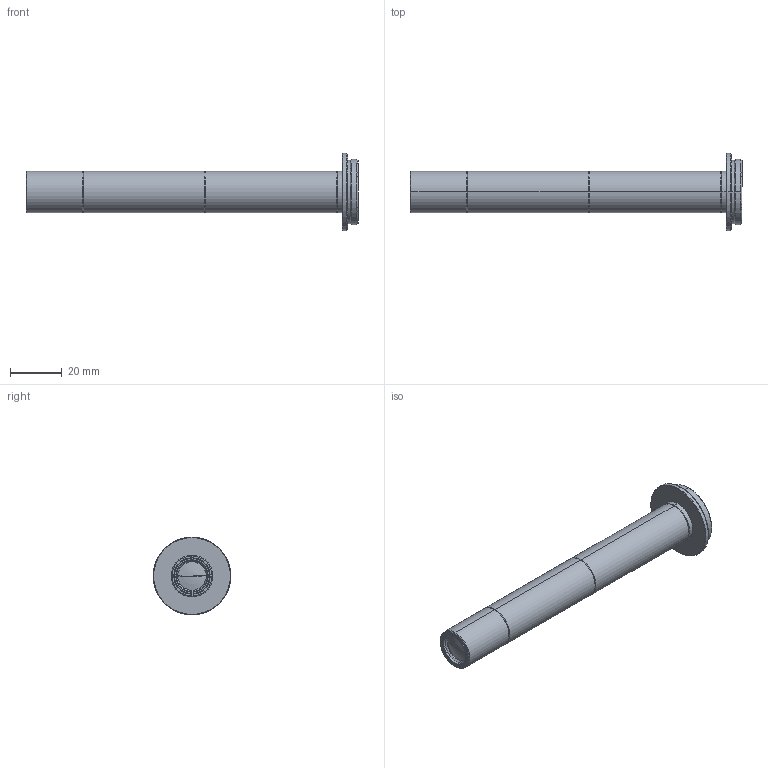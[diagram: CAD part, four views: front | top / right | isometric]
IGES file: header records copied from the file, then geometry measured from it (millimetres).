
Start section: SolidWorks IGES file using analytic representation for surfaces
Bounding box: 127.85 x 30 x 30 mm (x, y, z)
Surface area: 8307.6 mm2 (no closed solid volume)
Topology: 0 solids, 0 shells, 62 faces, 644 edges, 643 vertices
Faces by surface type: revolution 56, bspline 6
